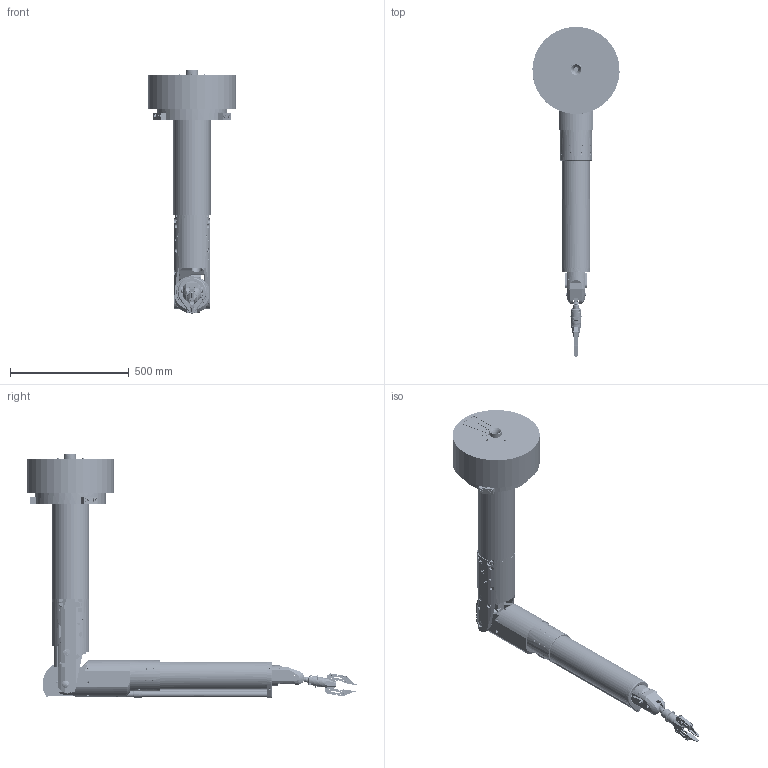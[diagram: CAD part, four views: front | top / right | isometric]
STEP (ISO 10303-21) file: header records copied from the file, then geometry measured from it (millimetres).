
FILE_DESCRIPTION( ( 'STEP AP214' ), '1' );
FILE_NAME( 'J:/SIT/270-BRAS PYTHON/07-Bras Python basifié simplifié STEP/BRAS PYTHON 2.30 BASIFIE SIMPLIFIE STEP/SIT BRAS PYTHON et MOTOR X 2.30 SALVAREM G1.step', '2008-10-24T11:10:59', ( ' ' ), ( ' ' ), 'XStep 1.0', ' ', ' ' );
FILE_SCHEMA( ( 'automotive_design' ) );
Length unit declared in the file: millimetre
Products named in the file (20): CHAPE ET TUBE 1 PYTHON 2.30; TUBE 2 PYTHON 2.30; GENOUILLERE DECONNECTABLE; AXE EN CROIX; SUPPORT BOOTING; CORPS PINCE; BIELLETTE INT; BIELLETTE EXT; MORS 1; MORS 2; TRAVERSEE; S_E Motorisation X_Extérieur_fixe; S_E Motorisation X Intérieur_mobile; TUBE 3 PYTHON 2.30; GENOUILLERE MOTORISEE; EPAULE; @13161; @13163
Bounding box: 366.5 x 1387.92 x 1024 mm (x, y, z)
Volume: 36906775.5 mm3; surface area: 3412320.9 mm2
Topology: 20 solids, 88 shells, 3818 faces, 9997 edges, 6640 vertices
Faces by surface type: plane 1985, cylinder 1347, cone 385, torus 48, bspline 31, sphere 22
Full cylindrical faces by diameter (mm): 1 x2, 2 x6, 2.05 x6, 2.5 x7, 2.6 x2, 2.98 x16, 3 x15, 3.2 x4, 3.3 x33, 3.4 x23, 4 x48, 4.2 x51, 4.5 x42, 4.8 x3, 5 x26, 5.01 x26, 5.5 x44, 6 x9, 6.5 x3, 6.6 x9, 6.75 x3, 7 x17, 7.5 x1, 8 x26, 8.4 x29, 8.5 x21, 8.8 x3, 9 x19, 9.3 x2, 9.6 x2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
Entity records: 157266 total; most frequent: CARTESIAN_POINT 40202, DIRECTION 17685, ORIENTED_EDGE 16174, EDGE_CURVE 8087, AXIS2_PLACEMENT_3D 6603, VERTEX_POINT 5903, EDGE_LOOP 5649, FACE_OUTER_BOUND 4570
